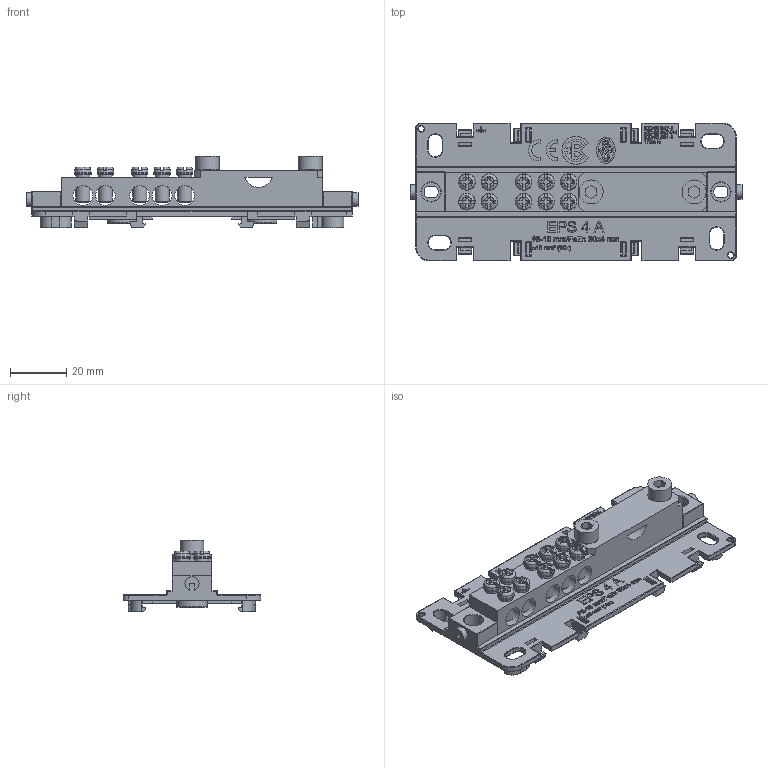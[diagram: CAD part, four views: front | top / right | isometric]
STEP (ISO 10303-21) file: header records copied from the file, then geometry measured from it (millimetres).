
FILE_DESCRIPTION(/* description */ ('Unknown'),/* implementation_level */ '2;1');
FILE_NAME(/* name */ 'EPS 4 A',/* time_stamp */ '2021-07-14T08:02:27+02:00',/* author */ ('Unknown'),/* organization */ ('Unknown'),/* preprocessor_version */ 'ST-DEVELOPER v16.7',/* originating_system */ 'Solid Edge',/* authorisation */ 'Unknown');
FILE_SCHEMA (('AUTOMOTIVE_DESIGN {1 0 10303 214 3 1 1}'));
Products named in the file (1): EPS 4 A
Bounding box: 118 x 49 x 25.5 mm (x, y, z)
Volume: 29995 mm3; surface area: 22649.2 mm2
Topology: 1 solids, 9 shells, 1707 faces, 4400 edges, 2825 vertices
Faces by surface type: plane 1101, cylinder 308, bspline 136, torus 124, cone 24, sphere 14
Full cylindrical faces by diameter (mm): 2 x2, 3.242 x2, 4.134 x2, 5 x28, 5.5 x2, 5.9 x10, 6.8 x2, 7 x5, 8.2 x2, 8.5 x2, 11 x2
Entity records: 68497 total; most frequent: CARTESIAN_POINT 16612, ORIENTED_EDGE 8324, DIRECTION 7642, EDGE_CURVE 4162, LINE 2942, VECTOR 2942, VERTEX_POINT 2772, AXIS2_PLACEMENT_3D 2350
